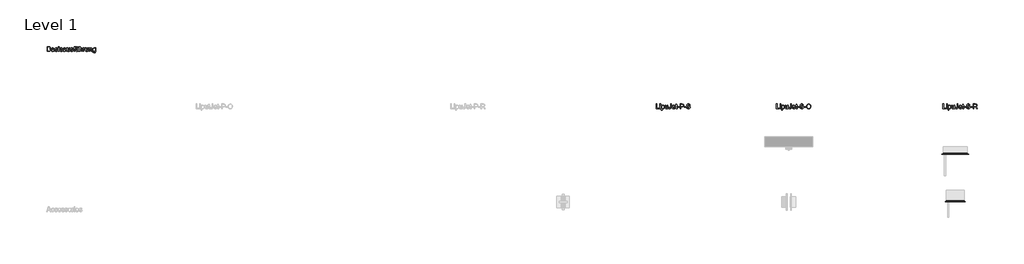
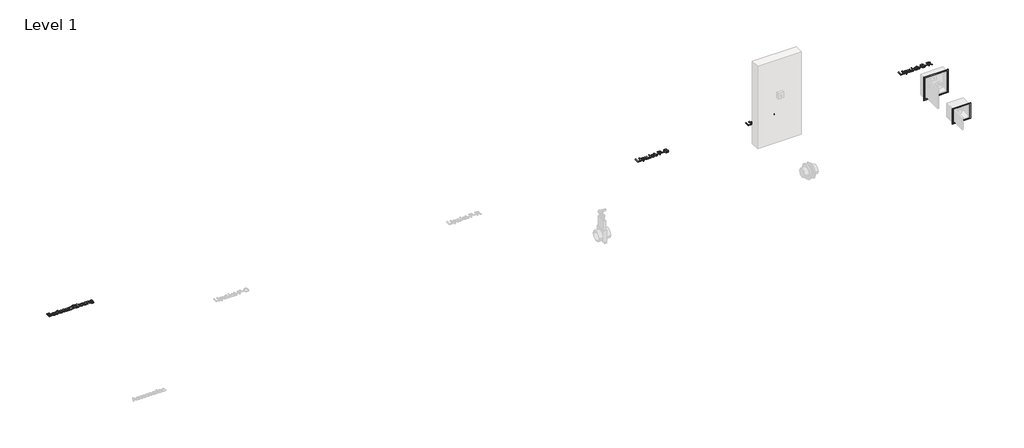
# One storey, part 2 of 3: 4 proxies, 2 furniture elements.
"""IFC4 building model written with IfcOpenShell, lengths in millimetres."""

from ifc_helpers import new_model, si_unit, origin, origin_with_axes, place, context, project, spatial, polyline, outline, extrude, transform, mapped, element, save
from components import std_dbb9a782, std_183a7562

model = new_model("IFC4")

# Units and contexts
model_context = context("Model", 3, world=origin())
ifc_project = project(units=[si_unit("LENGTHUNIT", "METRE", prefix="MILLI")], contexts=[model_context])

# Site, building, storey
site = spatial("IfcSite", under=ifc_project)
building = spatial("IfcBuilding", under=site)
storey = spatial("IfcBuildingStorey", under=building, Name="Level 1", Elevation=0.0)

# Proxies
placement = place(None, origin())
element("IfcBuildingElementProxy", 1, Name="100mm ACO", ObjectType="100mm ACO", at=placement, inside=storey, context=model_context, shape_type="SweptSolid", body=[
    extrude(outline(polyline([(-2942.8989889, 902.806713), (-2928.4024611, 893.5763889), (-2923.5992204, 878.8483796), (-2927.7369519, 863.5416667), (-2939.4991046, 853.2841435), (-2960.1732944, 850.0), (-2997.6732944, 850.0), (-2997.6732944, 950.0), (-2961.3017667, 950.0), (-2946.2518535, 948.0034722), (-2936.4030398, 942.0138889), (-2930.9668419, 933.5865162), (-2929.1547759, 924.2766204), (-2932.5691278, 912.0659722), (-2942.8989889, 902.806713)]), holes=[polyline([(-2984.7103315, 861.1111111), (-2960.0575537, 861.1111111), (-2948.8560201, 862.2793692), (-2941.6981787, 865.7841435), (-2936.5621833, 878.7037037), (-2937.9293708, 886.0930266), (-2942.0309333, 891.6521991), (-2949.6987574, 895.135272), (-2961.7647296, 896.2962963), (-2984.7103315, 896.2962963), (-2984.7103315, 861.1111111)]), polyline([(-2984.7103315, 907.4074074), (-2963.9059333, 907.4074074), (-2953.1420444, 908.1886574), (-2945.4597528, 912.3408565), (-2942.1177389, 922.8009259), (-2945.488688, 933.7818287), (-2953.5326694, 938.1076389), (-2965.5263037, 938.8888889), (-2984.7103315, 938.8888889), (-2984.7103315, 907.4074074)])]), origin_with_axes(), (0.0, 0.0, 1.0), 10.0),
    extrude(outline(polyline([(-2843.9695907, 850.0), (-2856.9325537, 850.0), (-2860.6362574, 858.7384259), (-2873.1290236, 850.7957176), (-2886.5911185, 848.1481481), (-2896.5773743, 849.5949074), (-2904.1981787, 853.9351852), (-2909.0267377, 860.6481481), (-2910.6362574, 869.212963), (-2909.0592898, 877.520978), (-2904.328387, 884.2158565), (-2895.6984681, 889.1095197), (-2882.4244519, 892.0138889), (-2871.0818593, 893.75), (-2860.6362574, 896.2962963), (-2860.969012, 904.3258102), (-2862.9076694, 909.2013889), (-2868.0726, 913.2667824), (-2877.6501463, 914.8148148), (-2889.7305861, 911.6753472), (-2895.8214426, 900.0), (-2908.7844056, 901.5914352), (-2905.2289947, 911.400463), (-2898.5558176, 918.431713), (-2888.7721081, 922.6634838), (-2875.8851, 924.0740741), (-2856.6287343, 920.2112269), (-2849.0766509, 910.8940972), (-2847.6732944, 896.8460648), (-2847.6732944, 880.3240741), (-2847.1235259, 860.0694444), (-2843.9695907, 850.0)]), holes=[polyline([(-2860.6362574, 882.4074074), (-2860.6362574, 887.037037), (-2883.9146139, 881.712963), (-2894.2336243, 877.6548032), (-2897.6732944, 869.4155093), (-2893.9695907, 860.7928241), (-2883.2925074, 857.4074074), (-2867.4794287, 863.0787037), (-2862.3470502, 870.7465278), (-2860.6362574, 882.4074074)])]), origin_with_axes(), (0.0, 0.0, 1.0), 10.0),
    extrude(outline(polyline([(-2788.4140352, 901.8518519), (-2793.2028083, 911.5740741), (-2804.2705167, 914.8148148), (-2815.5841741, 912.037037), (-2819.8955167, 903.9641204), (-2817.0454009, 896.8171296), (-2803.6050074, 892.9398148), (-2785.8822065, 888.7731481), (-2776.8399611, 882.4508102), (-2773.5992204, 871.1226852), (-2775.6102157, 862.1925637), (-2781.6432019, 854.7887731), (-2791.0399032, 849.8083044), (-2803.1420444, 848.1481481), (-2815.6167262, 849.5442708), (-2825.031512, 853.7326389), (-2831.3936359, 860.7060185), (-2834.7103315, 870.4571759), (-2821.7473685, 872.2222222), (-2816.1484102, 861.0966435), (-2803.1420444, 857.4074074), (-2790.8445907, 861.2413194), (-2786.5621833, 870.5729167), (-2788.4863731, 876.5480324), (-2793.2896139, 879.9189815), (-2806.8746833, 882.8125), (-2827.8092898, 890.625), (-2832.8584796, 903.2118056), (-2830.9885433, 911.4981192), (-2825.3787343, 918.1857639), (-2816.6077562, 922.6019965), (-2805.254313, 924.0740741), (-2793.322166, 922.7864583), (-2784.3775769, 918.9236111), (-2778.4205456, 912.4927662), (-2775.4510722, 903.5011574), (-2788.4140352, 901.8518519)])), origin_with_axes(), (0.0, 0.0, 1.0), 10.0),
    extrude(outline(polyline([(-2747.6732944, 937.037037), (-2760.6362574, 937.037037), (-2760.6362574, 950.0), (-2747.6732944, 950.0), (-2747.6732944, 937.037037)])), origin_with_axes(), (0.0, 0.0, 1.0), 10.0),
    extrude(outline(polyline([(-2747.6732944, 850.0), (-2760.6362574, 850.0), (-2760.6362574, 922.2222222), (-2747.6732944, 922.2222222), (-2747.6732944, 850.0)])), origin_with_axes(), (0.0, 0.0, 1.0), 10.0),
    extrude(outline(polyline([(-2688.4140352, 901.8518519), (-2693.2028083, 911.5740741), (-2704.2705167, 914.8148148), (-2715.5841741, 912.037037), (-2719.8955167, 903.9641204), (-2717.0454009, 896.8171296), (-2703.6050074, 892.9398148), (-2685.8822065, 888.7731481), (-2676.8399611, 882.4508102), (-2673.5992204, 871.1226852), (-2675.6102157, 862.1925637), (-2681.6432019, 854.7887731), (-2691.0399032, 849.8083044), (-2703.1420444, 848.1481481), (-2715.6167262, 849.5442708), (-2725.031512, 853.7326389), (-2731.3936359, 860.7060185), (-2734.7103315, 870.4571759), (-2721.7473685, 872.2222222), (-2716.1484102, 861.0966435), (-2703.1420444, 857.4074074), (-2690.8445907, 861.2413194), (-2686.5621833, 870.5729167), (-2688.4863731, 876.5480324), (-2693.2896139, 879.9189815), (-2706.8746833, 882.8125), (-2727.8092898, 890.625), (-2732.8584796, 903.2118056), (-2730.9885433, 911.4981192), (-2725.3787343, 918.1857639), (-2716.6077562, 922.6019965), (-2705.254313, 924.0740741), (-2693.322166, 922.7864583), (-2684.3775769, 918.9236111), (-2678.4205456, 912.4927662), (-2675.4510722, 903.5011574), (-2688.4140352, 901.8518519)])), origin_with_axes(), (0.0, 0.0, 1.0), 10.0),
    extrude(outline(polyline([(-2597.6732944, 850.0), (-2610.6362574, 850.0), (-2614.3399611, 858.7384259), (-2626.8327273, 850.7957176), (-2640.2948222, 848.1481481), (-2650.281078, 849.5949074), (-2657.9018824, 853.9351852), (-2662.7304414, 860.6481481), (-2664.3399611, 869.212963), (-2662.7629935, 877.520978), (-2658.0320907, 884.2158565), (-2649.4021718, 889.1095197), (-2636.1281556, 892.0138889), (-2624.785563, 893.75), (-2614.3399611, 896.2962963), (-2614.6727157, 904.3258102), (-2616.6113731, 909.2013889), (-2621.7763037, 913.2667824), (-2631.35385, 914.8148148), (-2643.4342898, 911.6753472), (-2649.5251463, 900.0), (-2662.4881093, 901.5914352), (-2658.9326984, 911.400463), (-2652.2595213, 918.431713), (-2642.4758118, 922.6634838), (-2629.5888037, 924.0740741), (-2610.332438, 920.2112269), (-2602.7803546, 910.8940972), (-2601.3769981, 896.8460648), (-2601.3769981, 880.3240741), (-2600.8272296, 860.0694444), (-2597.6732944, 850.0)]), holes=[polyline([(-2614.3399611, 882.4074074), (-2614.3399611, 887.037037), (-2637.6183176, 881.712963), (-2647.937328, 877.6548032), (-2651.3769981, 869.4155093), (-2647.6732944, 860.7928241), (-2636.9962111, 857.4074074), (-2621.1831324, 863.0787037), (-2616.0507539, 870.7465278), (-2614.3399611, 882.4074074)])]), origin_with_axes(), (0.0, 0.0, 1.0), 10.0),
    extrude(outline(polyline([(-2523.5992204, 850.0), (-2534.7103315, 850.0), (-2534.7103315, 860.5034722), (-2544.953387, 851.2369792), (-2557.91635, 848.1481481), (-2572.0367204, 851.6637731), (-2580.6883407, 861.3425926), (-2582.8584796, 877.34375), (-2582.8584796, 922.2222222), (-2569.8955167, 922.2222222), (-2569.8955167, 881.25), (-2568.9985259, 867.1585648), (-2564.3110259, 860.15625), (-2555.2832481, 857.4074074), (-2542.5372991, 862.3263889), (-2538.0559623, 869.8784722), (-2536.5621833, 882.6967593), (-2536.5621833, 922.2222222), (-2523.5992204, 922.2222222), (-2523.5992204, 850.0)])), origin_with_axes(), (0.0, 0.0, 1.0), 10.0),
    extrude(outline(polyline([(-2464.3399611, 901.8518519), (-2469.1287343, 911.5740741), (-2480.1964426, 914.8148148), (-2491.5101, 912.037037), (-2495.8214426, 903.9641204), (-2492.9713269, 896.8171296), (-2479.5309333, 892.9398148), (-2461.8081324, 888.7731481), (-2452.765887, 882.4508102), (-2449.5251463, 871.1226852), (-2451.5361417, 862.1925637), (-2457.5691278, 854.7887731), (-2466.9658292, 849.8083044), (-2479.0679704, 848.1481481), (-2491.5426521, 849.5442708), (-2500.957438, 853.7326389), (-2507.3195618, 860.7060185), (-2510.6362574, 870.4571759), (-2497.6732944, 872.2222222), (-2492.0743361, 861.0966435), (-2479.0679704, 857.4074074), (-2466.7705167, 861.2413194), (-2462.4881093, 870.5729167), (-2464.4122991, 876.5480324), (-2469.2155398, 879.9189815), (-2482.8006093, 882.8125), (-2503.7352157, 890.625), (-2508.7844056, 903.2118056), (-2506.9144692, 911.4981192), (-2501.3046602, 918.1857639), (-2492.5336822, 922.6019965), (-2481.1802389, 924.0740741), (-2469.2480919, 922.7864583), (-2460.3035028, 918.9236111), (-2454.3464715, 912.4927662), (-2451.3769981, 903.5011574), (-2464.3399611, 901.8518519)])), origin_with_axes(), (0.0, 0.0, 1.0), 10.0),
    extrude(outline(polyline([(-2403.22885, 950.8969907), (-2404.8202852, 942.5925926), (-2411.1281556, 942.5925926), (-2417.4360259, 940.4658565), (-2419.8955167, 929.9479167), (-2419.8955167, 922.2222222), (-2408.7844056, 922.2222222), (-2408.7844056, 912.962963), (-2419.8955167, 912.962963), (-2419.8955167, 850.0), (-2432.8584796, 850.0), (-2432.8584796, 912.962963), (-2443.9695907, 912.962963), (-2443.9695907, 922.2222222), (-2432.8584796, 922.2222222), (-2432.8584796, 930.150463), (-2431.8891509, 940.1331019), (-2426.7820907, 948.2349537), (-2414.0216741, 951.8518519), (-2403.22885, 950.8969907)])), origin_with_axes(), (0.0, 0.0, 1.0), 10.0),
    extrude(outline(polyline([(-2347.6732944, 935.1851852), (-2360.6362574, 935.1851852), (-2360.6362574, 950.0), (-2347.6732944, 950.0), (-2347.6732944, 935.1851852)])), origin_with_axes(), (0.0, 0.0, 1.0), 10.0),
    extrude(outline(polyline([(-2373.5992204, 935.1851852), (-2386.5621833, 935.1851852), (-2386.5621833, 950.0), (-2373.5992204, 950.0), (-2373.5992204, 935.1851852)])), origin_with_axes(), (0.0, 0.0, 1.0), 10.0),
    extrude(outline(polyline([(-2338.4140352, 850.0), (-2349.5251463, 850.0), (-2349.5251463, 860.5034722), (-2359.7682019, 851.2369792), (-2372.7311648, 848.1481481), (-2386.8515352, 851.6637731), (-2395.5031556, 861.3425926), (-2397.6732944, 877.34375), (-2397.6732944, 922.2222222), (-2384.7103315, 922.2222222), (-2384.7103315, 881.25), (-2383.8133407, 867.1585648), (-2379.1258407, 860.15625), (-2370.098063, 857.4074074), (-2357.3521139, 862.3263889), (-2352.8707771, 869.8784722), (-2351.3769981, 882.6967593), (-2351.3769981, 922.2222222), (-2338.4140352, 922.2222222), (-2338.4140352, 850.0)])), origin_with_axes(), (0.0, 0.0, 1.0), 10.0),
    extrude(outline(polyline([(-2260.6362574, 850.0), (-2273.5992204, 850.0), (-2273.5992204, 896.7013889), (-2277.2884565, 910.2864583), (-2288.2982944, 914.8148148), (-2301.2323222, 909.4762731), (-2305.5074958, 902.0435475), (-2306.9325537, 890.4224537), (-2306.9325537, 850.0), (-2319.8955167, 850.0), (-2319.8955167, 950.0), (-2306.9325537, 950.0), (-2306.9325537, 914.1782407), (-2297.2320329, 921.6001157), (-2285.3758407, 924.0740741), (-2272.0945907, 921.2094907), (-2263.1970213, 912.3987269), (-2260.6362574, 895.8912037), (-2260.6362574, 850.0)])), origin_with_axes(), (0.0, 0.0, 1.0), 10.0),
    extrude(outline(polyline([(-2203.22885, 921.2384259), (-2207.2797759, 912.962963), (-2215.7867204, 914.8148148), (-2221.5809912, 913.1872106), (-2225.7693593, 908.3043981), (-2229.1547759, 890.0752315), (-2229.1547759, 850.0), (-2242.1177389, 850.0), (-2242.1177389, 922.2222222), (-2231.0066278, 922.2222222), (-2231.0066278, 911.5162037), (-2224.0766509, 920.9346065), (-2215.6420444, 924.0740741), (-2203.22885, 921.2384259)])), origin_with_axes(), (0.0, 0.0, 1.0), 10.0),
    extrude(outline(polyline([(-2136.5621833, 850.0), (-2147.6732944, 850.0), (-2147.6732944, 860.5034722), (-2157.91635, 851.2369792), (-2170.879313, 848.1481481), (-2184.9996833, 851.6637731), (-2193.6513037, 861.3425926), (-2195.8214426, 877.34375), (-2195.8214426, 922.2222222), (-2182.8584796, 922.2222222), (-2182.8584796, 881.25), (-2181.9614889, 867.1585648), (-2177.2739889, 860.15625), (-2168.2462111, 857.4074074), (-2155.500262, 862.3263889), (-2151.0189252, 869.8784722), (-2149.5251463, 882.6967593), (-2149.5251463, 922.2222222), (-2136.5621833, 922.2222222), (-2136.5621833, 850.0)])), origin_with_axes(), (0.0, 0.0, 1.0), 10.0),
    extrude(outline(polyline([(-2058.7844056, 850.0), (-2071.7473685, 850.0), (-2071.7473685, 894.9652778), (-2075.6102157, 910.5613426), (-2086.359637, 914.8148148), (-2096.3856787, 912.0949074), (-2103.0986417, 904.4270833), (-2105.0807019, 890.4224537), (-2105.0807019, 850.0), (-2118.0436648, 850.0), (-2118.0436648, 922.2222222), (-2106.9325537, 922.2222222), (-2106.9325537, 912.181713), (-2097.0367204, 921.1082176), (-2083.7844056, 924.0740741), (-2072.4128778, 922.0196759), (-2063.6165815, 915.8709491), (-2059.6090583, 907.1325231), (-2058.7844056, 894.5891204), (-2058.7844056, 850.0)])), origin_with_axes(), (0.0, 0.0, 1.0), 10.0),
    extrude(outline(polyline([(-1981.0066278, 860.6481481), (-1984.0592898, 838.0063657), (-1994.9244519, 826.3744213), (-2013.5876463, 822.2222222), (-2024.8036475, 823.6291956), (-2033.9724843, 827.8501157), (-2040.0814252, 835.2756076), (-2042.1177389, 846.2962963), (-2029.1547759, 844.2418981), (-2024.5830167, 834.6788194), (-2013.3851, 831.4814815), (-2000.0749148, 835.1707176), (-1994.9099843, 844.1550926), (-1993.9695907, 858.7673611), (-2002.7441856, 852.1918403), (-2013.5587111, 850.0), (-2025.9502042, 852.6114005), (-2035.6362574, 860.4456019), (-2041.8862574, 872.2583912), (-2043.9695907, 886.8055556), (-2041.9875306, 901.4467593), (-2036.04135, 913.4259259), (-2026.594012, 921.412037), (-2014.1084796, 924.0740741), (-2003.0335375, 921.6941551), (-1994.2300074, 914.5543981), (-1993.9695907, 922.2222222), (-1981.0066278, 922.2222222), (-1981.0066278, 860.6481481)]), holes=[polyline([(-2011.6200537, 859.2592593), (-2004.4079588, 860.865162), (-1998.0494519, 865.6828704), (-1993.6006671, 874.2766204), (-1992.1177389, 887.2106481), (-1993.5319461, 898.9981192), (-1997.7745676, 907.6822917), (-2004.1005225, 913.031684), (-2011.7647296, 914.8148148), (-2019.4868072, 912.9882813), (-2025.6391509, 907.5086806), (-2029.6647586, 898.8534433), (-2031.0066278, 887.5), (-2029.5996544, 874.7829861), (-2025.3787343, 866.0300926), (-2019.1251174, 860.9519676), (-2011.6200537, 859.2592593)])]), origin_with_axes(), (0.0, 0.0, 1.0), 10.0),
])
element("IfcBuildingElementProxy", 2, Name="100mm ACO", ObjectType="100mm ACO", at=placement, inside=storey, context=model_context, shape_type="SweptSolid", body=[
    extrude(outline(polyline([(9810.1851852, -350.0), (9747.2222222, -350.0), (9747.2222222, -250.0), (9760.1851852, -250.0), (9760.1851852, -338.8888889), (9810.1851852, -338.8888889), (9810.1851852, -350.0)])), origin_with_axes(), (0.0, 0.0, 1.0), 10.0),
    extrude(outline(polyline([(9836.1111111, -262.962963), (9823.1481481, -262.962963), (9823.1481481, -250.0), (9836.1111111, -250.0), (9836.1111111, -262.962963)])), origin_with_axes(), (0.0, 0.0, 1.0), 10.0),
    extrude(outline(polyline([(9836.1111111, -350.0), (9823.1481481, -350.0), (9823.1481481, -277.7777778), (9836.1111111, -277.7777778), (9836.1111111, -350.0)])), origin_with_axes(), (0.0, 0.0, 1.0), 10.0),
    extrude(outline(polyline([(9867.7228009, -286.4872685), (9876.1791088, -278.5662616), (9887.8472222, -275.9259259), (9900.1736111, -278.515625), (9909.6064815, -286.2847222), (9915.5960648, -298.2132523), (9917.5925926, -313.28125), (9915.3356481, -329.1702836), (9908.5648148, -341.4207176), (9898.509838, -349.2440683), (9886.400463, -351.8518519), (9876.0271991, -349.7251157), (9867.9398148, -343.3449074), (9867.5925926, -377.7777778), (9854.6296296, -377.7777778), (9854.6296296, -277.7777778), (9867.5925926, -277.7777778), (9867.7228009, -286.4872685)]), holes=[polyline([(9884.9826389, -342.5925926), (9892.755353, -340.766059), (9899.0596065, -335.2864583), (9903.2371238, -326.1899595), (9904.6296296, -313.5127315), (9903.2877604, -301.4359086), (9899.2621528, -292.5202546), (9893.145978, -287.0189525), (9885.5324074, -285.1851852), (9877.6511863, -287.2287326), (9871.3107639, -293.359375), (9867.1332465, -302.7452257), (9865.7407407, -314.5543981), (9867.0753762, -326.66739), (9871.0792824, -335.4600694), (9877.2243924, -340.8094618), (9884.9826389, -342.5925926)])]), origin_with_axes(), (0.0, 0.0, 1.0), 10.0),
    extrude(outline(polyline([(9991.6666667, -350.0), (9980.5555556, -350.0), (9980.5555556, -339.4965278), (9970.3125, -348.7630208), (9957.349537, -351.8518519), (9943.2291667, -348.3362269), (9934.5775463, -338.6574074), (9932.4074074, -322.65625), (9932.4074074, -277.7777778), (9945.3703704, -277.7777778), (9945.3703704, -318.75), (9946.2673611, -332.8414352), (9950.9548611, -339.84375), (9959.9826389, -342.5925926), (9972.728588, -337.6736111), (9977.2099248, -330.1215278), (9978.7037037, -317.3032407), (9978.7037037, -277.7777778), (9991.6666667, -277.7777778), (9991.6666667, -350.0)])), origin_with_axes(), (0.0, 0.0, 1.0), 10.0),
    extrude(outline(polyline([(10060.1851852, -318.1134259), (10058.3116319, -333.8143808), (10052.6909722, -344.1695602), (10043.7282986, -349.9312789), (10031.8287037, -351.8518519), (10019.9291088, -349.9891493), (10011.4293981, -344.4010417), (10006.3295718, -335.0730613), (10004.6296296, -321.9907407), (10017.5925926, -320.3703704), (10021.4554398, -335.6481481), (10032.5231481, -340.7407407), (10042.4623843, -337.5), (10046.4699074, -330.0202546), (10047.2222222, -319.4444444), (10047.2222222, -250.0), (10060.1851852, -250.0), (10060.1851852, -318.1134259)])), origin_with_axes(), (0.0, 0.0, 1.0), 10.0),
    extrude(outline(polyline([(10141.6666667, -316.6666667), (10087.962963, -316.6666667), (10090.0354456, -327.7922454), (10094.7482639, -335.9375), (10101.5299479, -340.9288194), (10109.8090278, -342.5925926), (10121.484375, -338.9033565), (10128.7037037, -327.7777778), (10141.6666667, -329.2824074), (10137.2902199, -338.9033565), (10130.3530093, -346.0069444), (10121.1082176, -350.390625), (10109.8090278, -351.8518519), (10095.2220775, -349.3453414), (10084.2158565, -341.8258102), (10077.3039641, -329.9660012), (10075.0, -314.4386574), (10077.2207755, -298.900463), (10083.8831019, -286.6030093), (10094.5818866, -278.5951968), (10108.912037, -275.9259259), (10124.1319444, -279.3836806), (10136.5596065, -291.1603009), (10140.3899016, -301.6963252), (10141.6666667, -316.6666667)]), holes=[polyline([(10128.7037037, -307.4074074), (10126.6203704, -297.2511574), (10121.875, -290.3935185), (10108.59375, -285.1851852), (10100.7378472, -286.7332176), (10094.4155093, -291.3773148), (10087.962963, -307.4074074), (10128.7037037, -307.4074074)])]), origin_with_axes(), (0.0, 0.0, 1.0), 10.0),
    extrude(outline(polyline([(10184.2592593, -351.0127315), (10175.1736111, -351.8518519), (10163.5850694, -348.9728009), (10159.1435185, -341.6666667), (10158.3333333, -329.3402778), (10158.3333333, -287.037037), (10149.0740741, -287.037037), (10149.0740741, -277.7777778), (10158.3333333, -277.7777778), (10158.3333333, -259.4328704), (10171.2962963, -251.8518519), (10171.2962963, -277.7777778), (10182.4074074, -277.7777778), (10182.4074074, -287.037037), (10171.2962963, -287.037037), (10171.2962963, -331.9444444), (10172.337963, -340.162037), (10177.6331019, -342.5925926), (10182.6678241, -342.5925926), (10184.2592593, -351.0127315)])), origin_with_axes(), (0.0, 0.0, 1.0), 10.0),
    extrude(outline(polyline([(10228.7037037, -316.6666667), (10189.8148148, -316.6666667), (10189.8148148, -307.4074074), (10228.7037037, -307.4074074), (10228.7037037, -316.6666667)])), origin_with_axes(), (0.0, 0.0, 1.0), 10.0),
    extrude(outline(polyline([(10243.5185185, -250.0), (10281.0763889, -250.0), (10296.3831019, -250.8825231), (10308.3043981, -255.46875), (10316.6232639, -265.5237269), (10319.4444444, -278.8194444), (10317.2200521, -291.2507234), (10310.546875, -300.9403935), (10298.969184, -307.1795428), (10282.03125, -309.2592593), (10256.4814815, -309.2592593), (10256.4814815, -350.0), (10243.5185185, -350.0), (10243.5185185, -250.0)]), holes=[polyline([(10256.4814815, -298.1481481), (10282.5520833, -298.1481481), (10300.4991319, -293.4100116), (10304.9858941, -287.4873409), (10306.4814815, -279.1956019), (10303.3709491, -268.2146991), (10295.7320602, -262.2829861), (10282.2627315, -261.1111111), (10256.4814815, -261.1111111), (10256.4814815, -298.1481481)])]), origin_with_axes(), (0.0, 0.0, 1.0), 10.0),
    extrude(outline(polyline([(10367.5925926, -316.6666667), (10328.7037037, -316.6666667), (10328.7037037, -307.4074074), (10367.5925926, -307.4074074), (10367.5925926, -316.6666667)])), origin_with_axes(), (0.0, 0.0, 1.0), 10.0),
    extrude(outline(polyline([(10439.8148148, -279.6296296), (10437.8038194, -270.7356771), (10433.3333333, -264.3663194), (10417.0138889, -259.2592593), (10401.3888889, -263.2378472), (10396.875, -268.1242766), (10395.3703704, -274.8263889), (10399.8408565, -284.8813657), (10418.0266204, -291.1747685), (10437.8616898, -296.6579861), (10451.0127315, -305.5844907), (10455.114294, -312.6663773), (10456.4814815, -321.8171296), (10453.9749711, -333.6552373), (10446.4554398, -343.3015046), (10434.906684, -349.714265), (10420.3125, -351.8518519), (10402.3292824, -349.4791667), (10389.525463, -342.3611111), (10381.712963, -331.4670139), (10378.7037037, -317.7662037), (10391.6666667, -316.6666667), (10394.2961516, -327.5426794), (10400.5063657, -334.9971065), (10409.3424479, -339.3048322), (10419.849537, -340.7407407), (10436.9791667, -336.009838), (10441.8836806, -330.4361979), (10443.5185185, -323.1770833), (10441.8294271, -315.8492477), (10436.7621528, -310.8217593), (10413.4837963, -303.3709491), (10399.2730035, -299.0306713), (10389.6846065, -293.1568287), (10384.2267072, -285.5287905), (10382.4074074, -275.9259259), (10384.6896701, -264.9305556), (10391.5364583, -256.0185185), (10402.3184317, -250.1157407), (10416.40625, -248.1481481), (10430.9678819, -250.1302083), (10442.3611111, -256.0763889), (10449.8697917, -265.6684028), (10452.7777778, -278.587963), (10439.8148148, -279.6296296)])), origin_with_axes(), (0.0, 0.0, 1.0), 10.0),
])
element("IfcBuildingElementProxy", 3, Name="100mm ACO", ObjectType="100mm ACO", at=placement, inside=storey, context=model_context, shape_type="SweptSolid", body=[
    extrude(outline(polyline([(12322.6140462, -350.0), (12259.6510833, -350.0), (12259.6510833, -250.0), (12272.6140462, -250.0), (12272.6140462, -338.8888889), (12322.6140462, -338.8888889), (12322.6140462, -350.0)])), origin_with_axes(), (0.0, 0.0, 1.0), 10.0),
    extrude(outline(polyline([(12348.5399721, -350.0), (12335.5770092, -350.0), (12335.5770092, -277.7777778), (12348.5399721, -277.7777778), (12348.5399721, -350.0)])), origin_with_axes(), (0.0, 0.0, 1.0), 10.0),
    extrude(outline(polyline([(12348.5399721, -262.962963), (12335.5770092, -262.962963), (12335.5770092, -250.0), (12348.5399721, -250.0), (12348.5399721, -262.962963)])), origin_with_axes(), (0.0, 0.0, 1.0), 10.0),
    extrude(outline(polyline([(12380.151662, -286.4872685), (12388.6079698, -278.5662616), (12400.2760833, -275.9259259), (12412.6024721, -278.515625), (12422.0353425, -286.2847222), (12428.0249258, -298.2132523), (12430.0214536, -313.28125), (12427.7645092, -329.1702836), (12420.9936758, -341.4207176), (12410.938699, -349.2440683), (12398.829324, -351.8518519), (12388.4560601, -349.7251157), (12380.3686758, -343.3449074), (12380.0214536, -377.7777778), (12367.0584907, -377.7777778), (12367.0584907, -277.7777778), (12380.0214536, -277.7777778), (12380.151662, -286.4872685)]), holes=[polyline([(12397.4114999, -342.5925926), (12405.184214, -340.766059), (12411.4884675, -335.2864583), (12415.6659849, -326.1899595), (12417.0584907, -313.5127315), (12415.7166214, -301.4359086), (12411.6910138, -292.5202546), (12405.574839, -287.0189525), (12397.9612684, -285.1851852), (12390.0800474, -287.2287326), (12383.7396249, -293.359375), (12379.5621076, -302.7452257), (12378.1696018, -314.5543981), (12379.5042372, -326.66739), (12383.5081434, -335.4600694), (12389.6532534, -340.8094618), (12397.4114999, -342.5925926)])]), origin_with_axes(), (0.0, 0.0, 1.0), 10.0),
    extrude(outline(polyline([(12504.0955277, -350.0), (12492.9844166, -350.0), (12492.9844166, -339.4965278), (12482.741361, -348.7630208), (12469.7783981, -351.8518519), (12455.6580277, -348.3362269), (12447.0064073, -338.6574074), (12444.8362684, -322.65625), (12444.8362684, -277.7777778), (12457.7992314, -277.7777778), (12457.7992314, -318.75), (12458.6962221, -332.8414352), (12463.3837221, -339.84375), (12472.4114999, -342.5925926), (12485.157449, -337.6736111), (12489.6387858, -330.1215278), (12491.1325647, -317.3032407), (12491.1325647, -277.7777778), (12504.0955277, -277.7777778), (12504.0955277, -350.0)])), origin_with_axes(), (0.0, 0.0, 1.0), 10.0),
    extrude(outline(polyline([(12572.6140462, -318.1134259), (12570.740493, -333.8143808), (12565.1198333, -344.1695602), (12556.1571596, -349.9312789), (12544.2575647, -351.8518519), (12532.3579698, -349.9891493), (12523.8582592, -344.4010417), (12518.7584328, -335.0730613), (12517.0584907, -321.9907407), (12530.0214536, -320.3703704), (12533.8843008, -335.6481481), (12544.9520092, -340.7407407), (12554.8912453, -337.5), (12558.8987684, -330.0202546), (12559.6510833, -319.4444444), (12559.6510833, -250.0), (12572.6140462, -250.0), (12572.6140462, -318.1134259)])), origin_with_axes(), (0.0, 0.0, 1.0), 10.0),
    extrude(outline(polyline([(12654.0955277, -316.6666667), (12600.391824, -316.6666667), (12602.4643066, -327.7922454), (12607.1771249, -335.9375), (12613.9588089, -340.9288194), (12622.2378888, -342.5925926), (12633.913236, -338.9033565), (12641.1325647, -327.7777778), (12654.0955277, -329.2824074), (12649.7190809, -338.9033565), (12642.7818703, -346.0069444), (12633.5370786, -350.390625), (12622.2378888, -351.8518519), (12607.6509386, -349.3453414), (12596.6447175, -341.8258102), (12589.7328252, -329.9660012), (12587.428861, -314.4386574), (12589.6496365, -298.900463), (12596.3119629, -286.6030093), (12607.0107476, -278.5951968), (12621.3408981, -275.9259259), (12636.5608055, -279.3836806), (12648.9884675, -291.1603009), (12652.8187627, -301.6963252), (12654.0955277, -316.6666667)]), holes=[polyline([(12641.1325647, -307.4074074), (12639.0492314, -297.2511574), (12634.303861, -290.3935185), (12621.022611, -285.1851852), (12613.1667083, -286.7332176), (12606.8443703, -291.3773148), (12600.391824, -307.4074074), (12641.1325647, -307.4074074)])]), origin_with_axes(), (0.0, 0.0, 1.0), 10.0),
    extrude(outline(polyline([(12696.6881203, -351.0127315), (12687.6024721, -351.8518519), (12676.0139305, -348.9728009), (12671.5723796, -341.6666667), (12670.7621944, -329.3402778), (12670.7621944, -287.037037), (12661.5029351, -287.037037), (12661.5029351, -277.7777778), (12670.7621944, -277.7777778), (12670.7621944, -259.4328704), (12683.7251573, -251.8518519), (12683.7251573, -277.7777778), (12694.8362684, -277.7777778), (12694.8362684, -287.037037), (12683.7251573, -287.037037), (12683.7251573, -331.9444444), (12684.766824, -340.162037), (12690.0619629, -342.5925926), (12695.0966851, -342.5925926), (12696.6881203, -351.0127315)])), origin_with_axes(), (0.0, 0.0, 1.0), 10.0),
    extrude(outline(polyline([(12741.1325647, -316.6666667), (12702.2436758, -316.6666667), (12702.2436758, -307.4074074), (12741.1325647, -307.4074074), (12741.1325647, -316.6666667)])), origin_with_axes(), (0.0, 0.0, 1.0), 10.0),
    extrude(outline(polyline([(12813.354787, -279.6296296), (12811.3437916, -270.7356771), (12806.8733055, -264.3663194), (12790.553861, -259.2592593), (12774.928861, -263.2378472), (12770.4149721, -268.1242766), (12768.9103425, -274.8263889), (12773.3808286, -284.8813657), (12791.5665925, -291.1747685), (12811.401662, -296.6579861), (12824.5527036, -305.5844907), (12828.6542661, -312.6663773), (12830.0214536, -321.8171296), (12827.5149432, -333.6552373), (12819.995412, -343.3015046), (12808.4466562, -349.714265), (12793.8524721, -351.8518519), (12775.8692546, -349.4791667), (12763.0654351, -342.3611111), (12755.2529351, -331.4670139), (12752.2436758, -317.7662037), (12765.2066388, -316.6666667), (12767.8361238, -327.5426794), (12774.0463379, -334.9971065), (12782.8824201, -339.3048322), (12793.3895092, -340.7407407), (12810.5191388, -336.009838), (12815.4236527, -330.4361979), (12817.0584907, -323.1770833), (12815.3693992, -315.8492477), (12810.3021249, -310.8217593), (12787.0237684, -303.3709491), (12772.8129756, -299.0306713), (12763.2245786, -293.1568287), (12757.7666793, -285.5287905), (12755.9473796, -275.9259259), (12758.2296423, -264.9305556), (12765.0764305, -256.0185185), (12775.8584039, -250.1157407), (12789.9462221, -248.1481481), (12804.5078541, -250.1302083), (12815.9010833, -256.0763889), (12823.4097638, -265.6684028), (12826.3177499, -278.587963), (12813.354787, -279.6296296)])), origin_with_axes(), (0.0, 0.0, 1.0), 10.0),
    extrude(outline(polyline([(12880.0214536, -316.6666667), (12841.1325647, -316.6666667), (12841.1325647, -307.4074074), (12880.0214536, -307.4074074), (12880.0214536, -316.6666667)])), origin_with_axes(), (0.0, 0.0, 1.0), 10.0),
    extrude(outline(polyline([(12937.5156666, -248.1481481), (12956.0052499, -251.7216435), (12970.7911296, -262.4421296), (12980.4916504, -279.0147569), (12983.7251573, -300.1446759), (12980.4735659, -321.1841725), (12970.7187916, -337.6591435), (12955.9148275, -348.3036748), (12937.5156666, -351.8518519), (12918.6426921, -348.1734664), (12903.8640462, -337.1383102), (12894.3154351, -320.808015), (12891.1325647, -301.244213), (12894.3588379, -279.1630498), (12904.0376573, -262.3408565), (12918.8597059, -251.6963252), (12937.5156666, -248.1481481)]), holes=[polyline([(12937.3999258, -340.7407407), (12950.8403194, -338.0570023), (12961.4739999, -330.005787), (12968.4112106, -317.1730324), (12970.7621944, -300.1446759), (12968.4075937, -282.7365451), (12961.3437916, -269.8640046), (12950.7137279, -261.9104456), (12937.6603425, -259.2592593), (12924.3139883, -261.8561921), (12913.5573333, -269.6469907), (12906.4609791, -282.8052662), (12904.0955277, -301.5046296), (12906.4103425, -317.3864294), (12913.354787, -329.9045139), (12923.9957013, -338.031684), (12937.3999258, -340.7407407)])]), origin_with_axes(), (0.0, 0.0, 1.0), 10.0),
])
element("IfcBuildingElementProxy", 4, Name="100mm ACO", ObjectType="100mm ACO", at=placement, inside=storey, context=model_context, shape_type="SweptSolid", body=[
    extrude(outline(polyline([(15806.4814815, -350.0), (15743.5185185, -350.0), (15743.5185185, -250.0), (15756.4814815, -250.0), (15756.4814815, -338.8888889), (15806.4814815, -338.8888889), (15806.4814815, -350.0)])), origin_with_axes(), (0.0, 0.0, 1.0), 10.0),
    extrude(outline(polyline([(15832.4074074, -350.0), (15819.4444444, -350.0), (15819.4444444, -277.7777778), (15832.4074074, -277.7777778), (15832.4074074, -350.0)])), origin_with_axes(), (0.0, 0.0, 1.0), 10.0),
    extrude(outline(polyline([(15832.4074074, -262.962963), (15819.4444444, -262.962963), (15819.4444444, -250.0), (15832.4074074, -250.0), (15832.4074074, -262.962963)])), origin_with_axes(), (0.0, 0.0, 1.0), 10.0),
    extrude(outline(polyline([(15864.0190972, -286.4872685), (15872.4754051, -278.5662616), (15884.1435185, -275.9259259), (15896.4699074, -278.515625), (15905.9027778, -286.2847222), (15911.8923611, -298.2132523), (15913.8888889, -313.28125), (15911.6319444, -329.1702836), (15904.8611111, -341.4207176), (15894.8061343, -349.2440683), (15882.6967593, -351.8518519), (15872.3234954, -349.7251157), (15864.2361111, -343.3449074), (15863.8888889, -377.7777778), (15850.9259259, -377.7777778), (15850.9259259, -277.7777778), (15863.8888889, -277.7777778), (15864.0190972, -286.4872685)]), holes=[polyline([(15881.2789352, -342.5925926), (15889.0516493, -340.766059), (15895.3559028, -335.2864583), (15899.5334201, -326.1899595), (15900.9259259, -313.5127315), (15899.5840567, -301.4359086), (15895.5584491, -292.5202546), (15889.4422743, -287.0189525), (15881.8287037, -285.1851852), (15873.9474826, -287.2287326), (15867.6070602, -293.359375), (15863.4295428, -302.7452257), (15862.037037, -314.5543981), (15863.3716725, -326.66739), (15867.3755787, -335.4600694), (15873.5206887, -340.8094618), (15881.2789352, -342.5925926)])]), origin_with_axes(), (0.0, 0.0, 1.0), 10.0),
    extrude(outline(polyline([(15987.962963, -350.0), (15976.8518519, -350.0), (15976.8518519, -339.4965278), (15966.6087963, -348.7630208), (15953.6458333, -351.8518519), (15939.525463, -348.3362269), (15930.8738426, -338.6574074), (15928.7037037, -322.65625), (15928.7037037, -277.7777778), (15941.6666667, -277.7777778), (15941.6666667, -318.75), (15942.5636574, -332.8414352), (15947.2511574, -339.84375), (15956.2789352, -342.5925926), (15969.0248843, -337.6736111), (15973.5062211, -330.1215278), (15975.0, -317.3032407), (15975.0, -277.7777778), (15987.962963, -277.7777778), (15987.962963, -350.0)])), origin_with_axes(), (0.0, 0.0, 1.0), 10.0),
    extrude(outline(polyline([(16056.4814815, -318.1134259), (16054.6079282, -333.8143808), (16048.9872685, -344.1695602), (16040.0245949, -349.9312789), (16028.125, -351.8518519), (16016.2254051, -349.9891493), (16007.7256944, -344.4010417), (16002.6258681, -335.0730613), (16000.9259259, -321.9907407), (16013.8888889, -320.3703704), (16017.7517361, -335.6481481), (16028.8194444, -340.7407407), (16038.7586806, -337.5), (16042.7662037, -330.0202546), (16043.5185185, -319.4444444), (16043.5185185, -250.0), (16056.4814815, -250.0), (16056.4814815, -318.1134259)])), origin_with_axes(), (0.0, 0.0, 1.0), 10.0),
    extrude(outline(polyline([(16137.962963, -316.6666667), (16084.2592593, -316.6666667), (16086.3317419, -327.7922454), (16091.0445602, -335.9375), (16097.8262442, -340.9288194), (16106.1053241, -342.5925926), (16117.7806713, -338.9033565), (16125.0, -327.7777778), (16137.962963, -329.2824074), (16133.5865162, -338.9033565), (16126.6493056, -346.0069444), (16117.4045139, -350.390625), (16106.1053241, -351.8518519), (16091.5183738, -349.3453414), (16080.5121528, -341.8258102), (16073.6002604, -329.9660012), (16071.2962963, -314.4386574), (16073.5170718, -298.900463), (16080.1793981, -286.6030093), (16090.8781829, -278.5951968), (16105.2083333, -275.9259259), (16120.4282407, -279.3836806), (16132.8559028, -291.1603009), (16136.6861979, -301.6963252), (16137.962963, -316.6666667)]), holes=[polyline([(16125.0, -307.4074074), (16122.9166667, -297.2511574), (16118.1712963, -290.3935185), (16104.8900463, -285.1851852), (16097.0341435, -286.7332176), (16090.7118056, -291.3773148), (16084.2592593, -307.4074074), (16125.0, -307.4074074)])]), origin_with_axes(), (0.0, 0.0, 1.0), 10.0),
    extrude(outline(polyline([(16180.5555556, -351.0127315), (16171.4699074, -351.8518519), (16159.8813657, -348.9728009), (16155.4398148, -341.6666667), (16154.6296296, -329.3402778), (16154.6296296, -287.037037), (16145.3703704, -287.037037), (16145.3703704, -277.7777778), (16154.6296296, -277.7777778), (16154.6296296, -259.4328704), (16167.5925926, -251.8518519), (16167.5925926, -277.7777778), (16178.7037037, -277.7777778), (16178.7037037, -287.037037), (16167.5925926, -287.037037), (16167.5925926, -331.9444444), (16168.6342593, -340.162037), (16173.9293981, -342.5925926), (16178.9641204, -342.5925926), (16180.5555556, -351.0127315)])), origin_with_axes(), (0.0, 0.0, 1.0), 10.0),
    extrude(outline(polyline([(16225.0, -316.6666667), (16186.1111111, -316.6666667), (16186.1111111, -307.4074074), (16225.0, -307.4074074), (16225.0, -316.6666667)])), origin_with_axes(), (0.0, 0.0, 1.0), 10.0),
    extrude(outline(polyline([(16297.2222222, -279.6296296), (16295.2112269, -270.7356771), (16290.7407407, -264.3663194), (16274.4212963, -259.2592593), (16258.7962963, -263.2378472), (16254.2824074, -268.1242766), (16252.7777778, -274.8263889), (16257.2482639, -284.8813657), (16275.4340278, -291.1747685), (16295.2690972, -296.6579861), (16308.4201389, -305.5844907), (16312.5217014, -312.6663773), (16313.8888889, -321.8171296), (16311.3823785, -333.6552373), (16303.8628472, -343.3015046), (16292.3140914, -349.714265), (16277.7199074, -351.8518519), (16259.7366898, -349.4791667), (16246.9328704, -342.3611111), (16239.1203704, -331.4670139), (16236.1111111, -317.7662037), (16249.0740741, -316.6666667), (16251.703559, -327.5426794), (16257.9137731, -334.9971065), (16266.7498553, -339.3048322), (16277.2569444, -340.7407407), (16294.3865741, -336.009838), (16299.291088, -330.4361979), (16300.9259259, -323.1770833), (16299.2368345, -315.8492477), (16294.1695602, -310.8217593), (16270.8912037, -303.3709491), (16256.6804109, -299.0306713), (16247.0920139, -293.1568287), (16241.6341146, -285.5287905), (16239.8148148, -275.9259259), (16242.0970775, -264.9305556), (16248.9438657, -256.0185185), (16259.7258391, -250.1157407), (16273.8136574, -248.1481481), (16288.3752894, -250.1302083), (16299.7685185, -256.0763889), (16307.2771991, -265.6684028), (16310.1851852, -278.587963), (16297.2222222, -279.6296296)])), origin_with_axes(), (0.0, 0.0, 1.0), 10.0),
    extrude(outline(polyline([(16363.8888889, -316.6666667), (16325.0, -316.6666667), (16325.0, -307.4074074), (16363.8888889, -307.4074074), (16363.8888889, -316.6666667)])), origin_with_axes(), (0.0, 0.0, 1.0), 10.0),
    extrude(outline(polyline([(16466.2037037, -350.0), (16451.2152778, -350.0), (16432.4508102, -320.1388889), (16424.681713, -311.009838), (16416.9560185, -306.4959491), (16407.3784722, -305.5555556), (16391.6666667, -305.5555556), (16391.6666667, -350.0), (16378.7037037, -350.0), (16378.7037037, -250.0), (16422.8298611, -250.0), (16438.0063657, -251.1429398), (16448.7413194, -255.9461806), (16455.8449074, -265.1765046), (16458.3333333, -276.9097222), (16456.5176505, -286.9610822), (16451.0706019, -294.8350694), (16442.2019676, -300.3797743), (16430.1215278, -303.443287), (16439.7786458, -310.9302662), (16448.8425926, -322.5983796), (16466.2037037, -350.0)]), holes=[polyline([(16391.6666667, -294.4444444), (16420.4282407, -294.4444444), (16434.2158565, -292.96875), (16442.3321759, -287.2251157), (16445.3703704, -277.6331019), (16440.3211806, -265.9288194), (16433.6335359, -262.3155382), (16423.6689815, -261.1111111), (16391.6666667, -261.1111111), (16391.6666667, -294.4444444)])]), origin_with_axes(), (0.0, 0.0, 1.0), 10.0),
])

# Furniture
std_shape = std_dbb9a782(model_context)
element("IfcFurniture", 5, ObjectType="ZZZ_do not use_GM_ST_WPB_flushframe_ACO : std", at=placement, inside=storey, context=model_context, shape_type="MappedRepresentation", body=[
    mapped(std_shape, transform((16000.0, -1300.0, 250.0), x_axis=(1.0, 0.0, 0.0), y_axis=(0.0, 0.0, 1.0), z_axis=(0.0, -1.0, 0.0))),
])
std_2_shape = std_183a7562(model_context)
element("IfcFurniture", 6, ObjectType="ZZZ_do not use_GM_ST_WPB_flushframe_ACO : std", at=placement, inside=storey, context=model_context, shape_type="MappedRepresentation", body=[
    mapped(std_2_shape, transform((16000.0, -2300.0, 165.0), x_axis=(1.0, 0.0, 0.0), y_axis=(0.0, 0.0, 1.0), z_axis=(0.0, -1.0, 0.0))),
])

save(model, "model.ifc")
